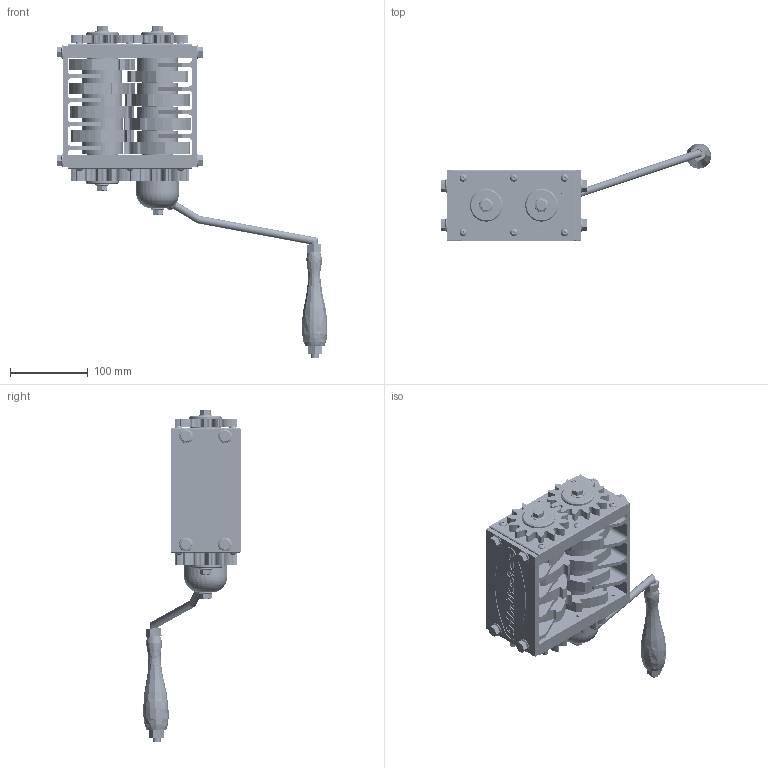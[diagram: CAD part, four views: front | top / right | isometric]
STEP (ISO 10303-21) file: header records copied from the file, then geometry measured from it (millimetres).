
FILE_DESCRIPTION (( 'STEP AP214' ), '1' );
FILE_NAME ('3dprinted shredder big.STEP', '2014-11-10T14:00:58', ( 'Thymark' ), ( '' ), 'SwSTEP 2.0', 'SolidWorks 2012', '' );
FILE_SCHEMA (( 'AUTOMOTIVE_DESIGN' ));
Length unit declared in the file: millimetre
Products named in the file (25): nut 17; print handle; handle; dom; hex flange bolt_din_DIN 6921 - M8 x 30 x 30-S; cup; spur gear 15mm; spur gear; longer shaft assembly; for shaft long; short shaft assembly; bioshredder spacer 2_15,6; bioshredder 10_15; print st; for shaft1+5; square tube_iso_30 x 30 x 2.0x122; for shaft1; bearing assembly; socket button head screw_iso_ISO 7380 - M5 x 12 --- 12S; skf 6006 30x55x13; printed bearing holder thin; printed bearing holder; side print; 20mm Bearing SKF 6204 RS286-7990; 3dprinted shredder big
Assembly tree (67 placements, depth 3):
  3dprinted shredder big
    20mm Bearing SKF 6204 RS286-7990
    side print  x2
    bearing assembly  x2
      printed bearing holder
      printed bearing holder thin
      skf 6006 30x55x13
      socket button head screw_iso_ISO 7380 - M5 x 12 --- 12S
    short shaft assembly
      for shaft1
      square tube_iso_30 x 30 x 2.0x122
      for shaft1+5
      print st  x2
      bioshredder 10_15  x4
      bioshredder spacer 2_15,6  x4
    longer shaft assembly
      for shaft long
      square tube_iso_30 x 30 x 2.0x122
      for shaft1
      print st  x2
      bioshredder 10_15  x4
      bioshredder spacer 2_15,6  x4
    spur gear  x2
    spur gear 15mm  x2
    cup  x3
    hex flange bolt_din_DIN 6921 - M8 x 30 x 30-S  x12
    dom
    handle
    print handle
    nut 17  x2
Bounding box: 347.67 x 125.02 x 426.05 mm (x, y, z)
Volume: 1837503.4 mm3; surface area: 660377.3 mm2
Topology: 86 solids, 86 shells, 5585 faces, 14634 edges, 9314 vertices
Faces by surface type: cone 1972, cylinder 1826, plane 1188, bspline 453, torus 102, sphere 44
Entity records: 50980 total; most frequent: CARTESIAN_POINT 16812, ORIENTED_EDGE 6958, DIRECTION 6816, EDGE_CURVE 3479, AXIS2_PLACEMENT_3D 2538, VERTEX_POINT 2268, LINE 1740, VECTOR 1740
